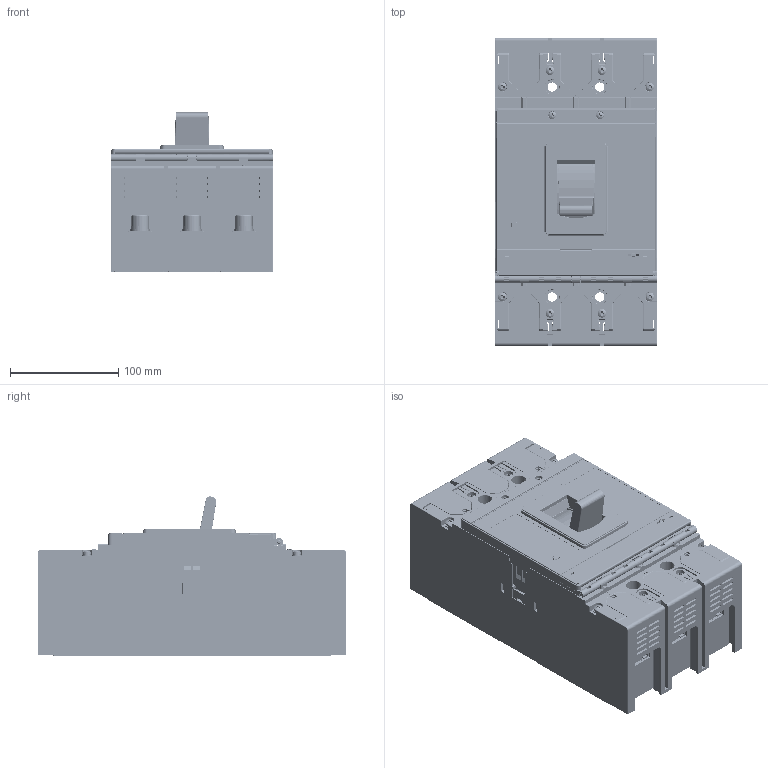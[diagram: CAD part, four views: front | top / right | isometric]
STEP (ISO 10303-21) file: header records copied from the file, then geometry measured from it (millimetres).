
FILE_DESCRIPTION((''),'2;1');
FILE_NAME('2TZD_256_1161_ASM_ASM','2022-02-17T',('wenshicheng'),(''),'PRO/ENGINEER BY PARAMETRIC TECHNOLOGY CORPORATION, 2017170','PRO/ENGINEER BY PARAMETRIC TECHNOLOGY CORPORATION, 2017170','');
FILE_SCHEMA(('CONFIG_CONTROL_DESIGN'));
Products named in the file (109): MSBR-107; MSBR-106; MSBR-105; MSBR-104; MSBR-103; MSBR-102; MSBR-101; MSBR-100; MSBR-99; MSBR-98; MSBR-97; MSBR-96; MSBR-95; MSBR-94; MSBR-93; MSBR-92; MSBR-91; MSBR-90; MSBR-89; MSBR-88; MSBR-87; MSBR-86; MSBR-85; MSBR-84; MSBR-83; MSBR-82; MSBR-81; MSBR-80; MSBR-79; MSBR-78; MSBR-77; MSBR-76; MSBR-75; MSBR-74; MSBR-73; MSBR-72; MSBR-71; MSBR-70; MSBR-69; MSBR-68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
Assembly tree (108 placements, depth 2):
  2TZD_256_1161_ASM_ASM
    MSBR-107
    MSBR-106
    MSBR-105
    MSBR-104
    MSBR-103
    MSBR-102
    MSBR-101
    MSBR-100
    MSBR-99
    MSBR-98
    MSBR-97
    MSBR-96
    MSBR-95
    MSBR-94
    MSBR-93
    MSBR-92
    MSBR-91
    MSBR-90
    MSBR-89
    MSBR-88
    MSBR-87
    MSBR-86
    MSBR-85
    MSBR-84
    MSBR-83
    MSBR-82
    MSBR-81
    MSBR-80
    MSBR-79
    MSBR-78
    MSBR-77
    MSBR-76
    MSBR-75
    MSBR-74
    MSBR-73
    MSBR-72
    MSBR-71
    MSBR-70
    MSBR-69
    MSBR-68
    MSBR-67
    MSBR-66
    MSBR-65
    MSBR-64
    MSBR-63
    MSBR-62
    MSBR-61
    MSBR-60
    MSBR-59
    MSBR-58
    MSBR-57
    MSBR-56
    MSBR-55
    MSBR-54
    MSBR-53
    MSBR-52
    MSBR-51
    MSBR-50
    MSBR-49
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Bounding box: 150 x 284.8 x 147.21 mm (x, y, z)
Volume: 1561865.9 mm3; surface area: 990255.5 mm2
Topology: 107 solids, 178 shells, 8800 faces, 24518 edges, 16161 vertices
Faces by surface type: plane 5849, cylinder 2273, cone 268, torus 173, sphere 120, extrusion 63, bspline 54
Entity records: 289655 total; most frequent: CARTESIAN_POINT 57225, ORIENTED_EDGE 48490, DIRECTION 47708, EDGE_CURVE 24382, VECTOR 17132, LINE 17069, VERTEX_POINT 16161, AXIS2_PLACEMENT_3D 15288
